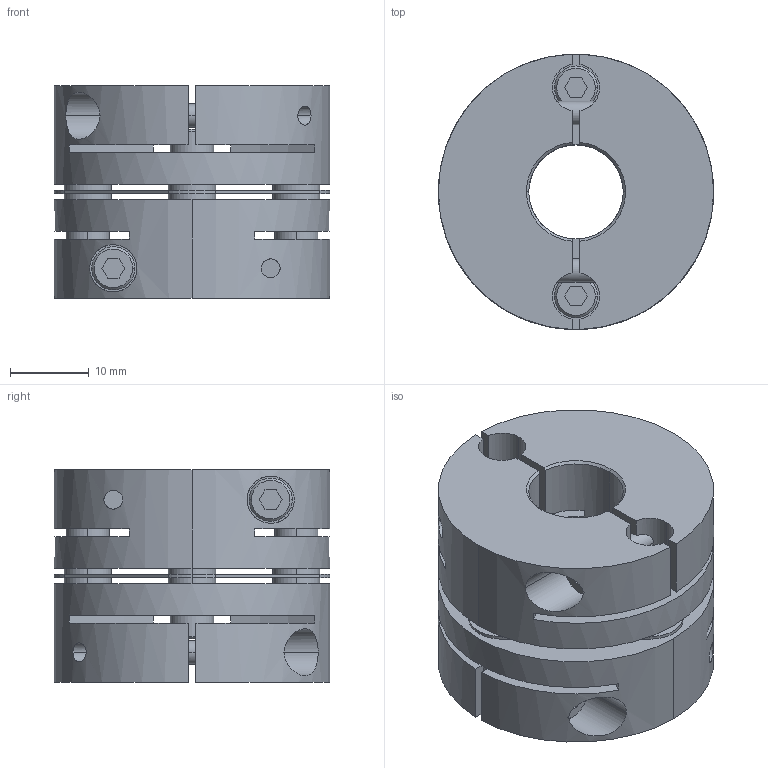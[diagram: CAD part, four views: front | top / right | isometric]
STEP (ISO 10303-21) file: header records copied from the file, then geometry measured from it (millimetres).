
FILE_DESCRIPTION((''),'2;1');
FILE_NAME('LAS-35C-12×12.stp','2011-08-10T16:39:51',(''),(''),'AutoCAD STEP 2000i','AutoCAD 2000i',', , ');
FILE_SCHEMA(('CONFIG_CONTROL_DESIGN'));
Length unit declared in the file: millimetre
Products named in the file (5): LAS-35C-8×8; 忣兜1; LA-3502-D08-1; LA-3502-D08; LAS35-ITA
Assembly tree (4 placements, depth 2):
  LAS-35C-8×8
    忣兜1
    LA-3502-D08-1
    LA-3502-D08
    LAS35-ITA
Bounding box: 35 x 35 x 27 mm (x, y, z)
Volume: 19013.3 mm3; surface area: 11960.3 mm2
Topology: 1 solids, 1 shells, 236 faces, 624 edges, 408 vertices
Faces by surface type: plane 112, cylinder 96, cone 28
Entity records: 8143 total; most frequent: CARTESIAN_POINT 1949, DIRECTION 1302, ORIENTED_EDGE 1248, EDGE_CURVE 624, AXIS2_PLACEMENT_3D 477, VERTEX_POINT 408, VECTOR 348, LINE 348
